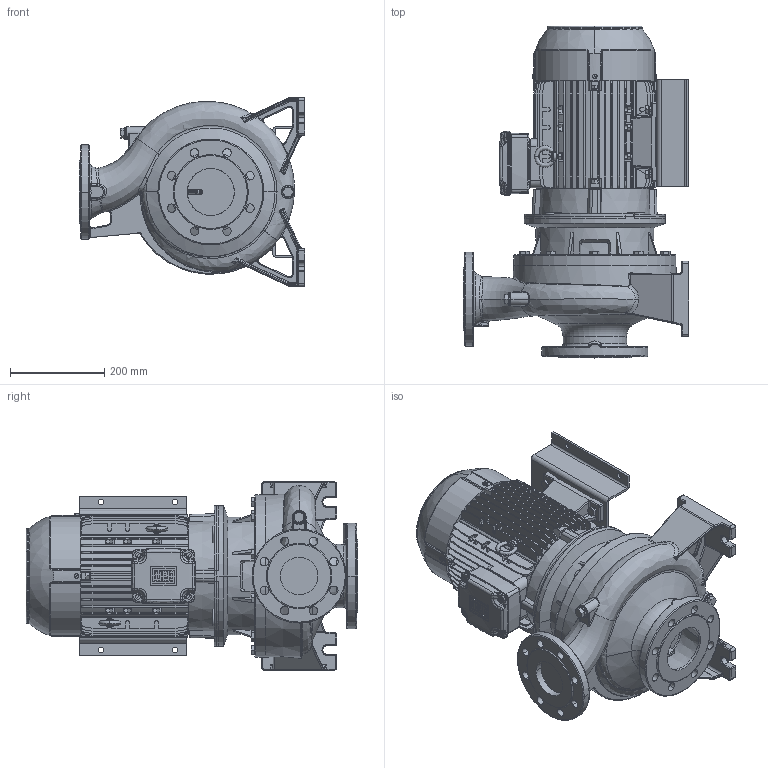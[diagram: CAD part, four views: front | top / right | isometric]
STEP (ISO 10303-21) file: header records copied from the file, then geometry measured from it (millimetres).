
FILE_DESCRIPTION (( 'STEP AP214' ), '1' );
FILE_NAME ('3LS4 80-250_5.5_(132S)_W21.STEP', '2025-07-29T00:44:00', ( '' ), ( '' ), 'SwSTEP 2.0', 'SolidWorks 2019', '' );
FILE_SCHEMA (( 'AUTOMOTIVE_DESIGN' ));
Length unit declared in the file: inch
Products named in the file (3): 3LS4 80-250_5.5_(132S)_W21; 3SF4_80-250_5_5; 132S ALIE3W21T_B35.STEP
Assembly tree (2 placements, depth 2):
  3LS4 80-250_5.5_(132S)_W21
    3SF4_80-250_5_5
    132S ALIE3W21T_B35.STEP
Bounding box: 480 x 705.65 x 400 mm (x, y, z)
Volume: 37924566.6 mm3; surface area: 2426651.2 mm2
Topology: 10 solids, 10 shells, 4229 faces, 10814 edges, 6911 vertices
Faces by surface type: plane 2687, cylinder 747, bspline 358, torus 232, cone 159, sphere 46
Entity records: 171185 total; most frequent: CARTESIAN_POINT 59221, ORIENTED_EDGE 21568, DIRECTION 18852, EDGE_CURVE 10784, LINE 7160, VECTOR 7160, VERTEX_POINT 6907, AXIS2_PLACEMENT_3D 5846
